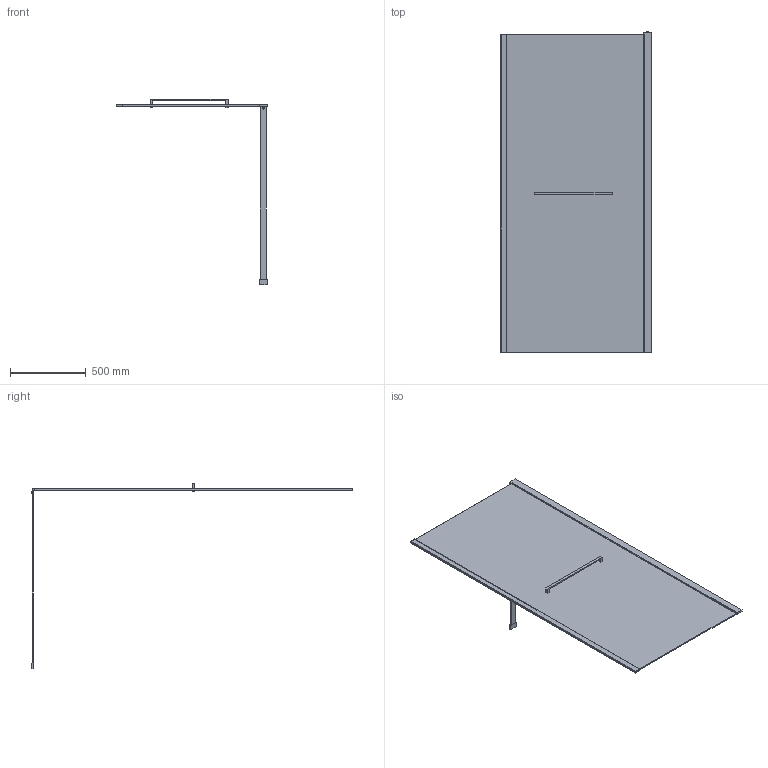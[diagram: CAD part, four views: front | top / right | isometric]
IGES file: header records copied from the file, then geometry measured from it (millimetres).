
Start section: SolidWorks IGES file using analytic representation for surfaces
Global section: file name: D:\Users\M.Szymanski\Desktop\Kabiny\PI_ALTIIa\PI_ALTIIa_100_wspornik poziomy_K3D.IGS; native system: SolidWorks 2011; preprocessor: SolidWorks 2011; author: M.Szymanski; date: 181002.135840; units: millimetre
Bounding box: 996.4 x 2124.7 x 1223.1 mm (x, y, z)
Surface area: 4869758.3 mm2 (no closed solid volume)
Topology: 0 solids, 0 shells, 56 faces, 367 edges, 477 vertices
Faces by surface type: bspline 52, revolution 4
